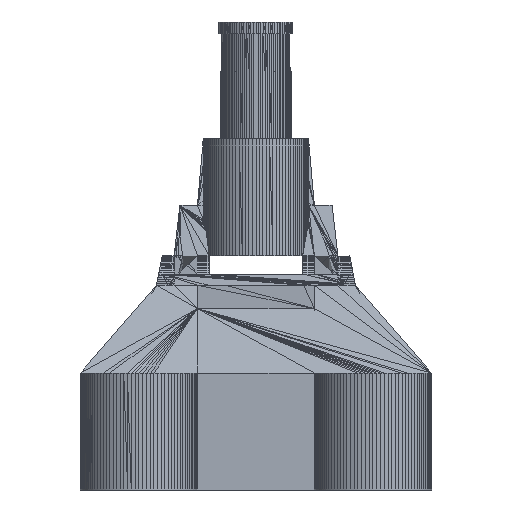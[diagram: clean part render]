
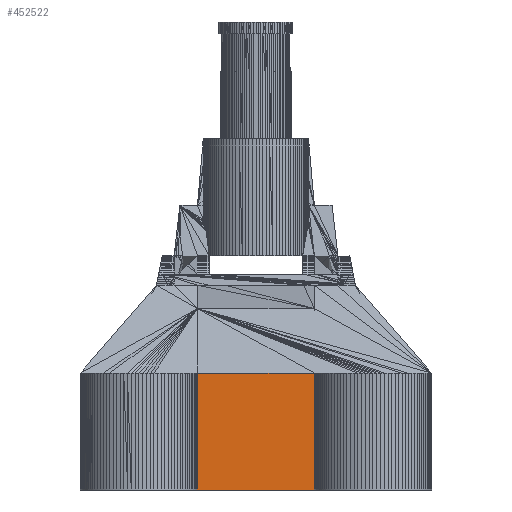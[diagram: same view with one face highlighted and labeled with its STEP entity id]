
A CAD part, front view. The second image highlights one B-rep face of the part: STEP entity #452522.
In plain terms, the highlighted planar face has unit normal (0, -1, 0).
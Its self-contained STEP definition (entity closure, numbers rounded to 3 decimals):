
#32 = PLANE('',#33);
#33 = AXIS2_PLACEMENT_3D('',#34,#35,#36);
#34 = CARTESIAN_POINT('',(-11.476,-15.191,
    0.));
#35 = DIRECTION('',(0.,0.,-1.));
#36 = DIRECTION('',(-1.,0.,-0.));
#2745 = VERTEX_POINT('',#2746);
#2746 = CARTESIAN_POINT('',(3.99,-9.192,
    0.));
#2772 = EDGE_CURVE('',#2773,#2745,#2775,.T.);
#2773 = VERTEX_POINT('',#2774);
#2774 = CARTESIAN_POINT('',(-4.004,-9.192,
    0.));
#2775 = SURFACE_CURVE('',#2776,(#2780,#2787),.PCURVE_S1.);
#2776 = LINE('',#2777,#2778);
#2777 = CARTESIAN_POINT('',(-4.004,-9.192,
    0.));
#2778 = VECTOR('',#2779,1.);
#2779 = DIRECTION('',(1.,0.,0.));
#2780 = PCURVE('',#32,#2781);
#2781 = DEFINITIONAL_REPRESENTATION('',(#2782),#2786);
#2782 = LINE('',#2783,#2784);
#2783 = CARTESIAN_POINT('',(-7.472,5.999));
#2784 = VECTOR('',#2785,1.);
#2785 = DIRECTION('',(-1.,0.));
#2786 = ( GEOMETRIC_REPRESENTATION_CONTEXT(2) 
PARAMETRIC_REPRESENTATION_CONTEXT() REPRESENTATION_CONTEXT('2D SPACE',''
  ) );
#2787 = PCURVE('',#2788,#2793);
#2788 = PLANE('',#2789);
#2789 = AXIS2_PLACEMENT_3D('',#2790,#2791,#2792);
#2790 = CARTESIAN_POINT('',(-4.004,-9.192,
    0.));
#2791 = DIRECTION('',(0.,-1.,0.));
#2792 = DIRECTION('',(0.,-0.,-1.));
#2793 = DEFINITIONAL_REPRESENTATION('',(#2794),#2798);
#2794 = LINE('',#2795,#2796);
#2795 = CARTESIAN_POINT('',(0.,0.));
#2796 = VECTOR('',#2797,1.);
#2797 = DIRECTION('',(0.,1.));
#2798 = ( GEOMETRIC_REPRESENTATION_CONTEXT(2) 
PARAMETRIC_REPRESENTATION_CONTEXT() REPRESENTATION_CONTEXT('2D SPACE',''
  ) );
#2816 = PLANE('',#2817);
#2817 = AXIS2_PLACEMENT_3D('',#2818,#2819,#2820);
#2818 = CARTESIAN_POINT('',(-4.004,-13.196,
    0.));
#2819 = DIRECTION('',(1.,0.,0.));
#2820 = DIRECTION('',(0.,0.,1.));
#23137 = VERTEX_POINT('',#23138);
#23138 = CARTESIAN_POINT('',(3.99,-9.192,7.995
    ));
#23180 = PLANE('',#23181);
#23181 = AXIS2_PLACEMENT_3D('',#23182,#23183,#23184);
#23182 = CARTESIAN_POINT('',(3.99,-13.196,
    7.995));
#23183 = DIRECTION('',(-1.,0.,0.));
#23184 = DIRECTION('',(0.,0.,-1.));
#25806 = EDGE_CURVE('',#2745,#23137,#25807,.T.);
#25807 = SURFACE_CURVE('',#25808,(#25812,#25819),.PCURVE_S1.);
#25808 = LINE('',#25809,#25810);
#25809 = CARTESIAN_POINT('',(3.99,-9.192,
    0.));
#25810 = VECTOR('',#25811,1.);
#25811 = DIRECTION('',(0.,0.,1.));
#25812 = PCURVE('',#23180,#25813);
#25813 = DEFINITIONAL_REPRESENTATION('',(#25814),#25818);
#25814 = LINE('',#25815,#25816);
#25815 = CARTESIAN_POINT('',(7.995,-4.004));
#25816 = VECTOR('',#25817,1.);
#25817 = DIRECTION('',(-1.,0.));
#25818 = ( GEOMETRIC_REPRESENTATION_CONTEXT(2) 
PARAMETRIC_REPRESENTATION_CONTEXT() REPRESENTATION_CONTEXT('2D SPACE',''
  ) );
#25819 = PCURVE('',#2788,#25820);
#25820 = DEFINITIONAL_REPRESENTATION('',(#25821),#25825);
#25821 = LINE('',#25822,#25823);
#25822 = CARTESIAN_POINT('',(0.,7.995));
#25823 = VECTOR('',#25824,1.);
#25824 = DIRECTION('',(-1.,0.));
#25825 = ( GEOMETRIC_REPRESENTATION_CONTEXT(2) 
PARAMETRIC_REPRESENTATION_CONTEXT() REPRESENTATION_CONTEXT('2D SPACE',''
  ) );
#25867 = PLANE('',#25868);
#25868 = AXIS2_PLACEMENT_3D('',#25869,#25870,#25871);
#25869 = CARTESIAN_POINT('',(-4.004,-9.192,7.995
    ));
#25870 = DIRECTION('',(0.,-0.707,0.707));
#25871 = DIRECTION('',(0.,0.707,0.707));
#25904 = EDGE_CURVE('',#25905,#23137,#25907,.T.);
#25905 = VERTEX_POINT('',#25906);
#25906 = CARTESIAN_POINT('',(-4.004,-9.192,7.995
    ));
#25907 = SURFACE_CURVE('',#25908,(#25912,#25919),.PCURVE_S1.);
#25908 = LINE('',#25909,#25910);
#25909 = CARTESIAN_POINT('',(-4.004,-9.192,7.995
    ));
#25910 = VECTOR('',#25911,1.);
#25911 = DIRECTION('',(1.,0.,0.));
#25912 = PCURVE('',#25867,#25913);
#25913 = DEFINITIONAL_REPRESENTATION('',(#25914),#25918);
#25914 = LINE('',#25915,#25916);
#25915 = CARTESIAN_POINT('',(0.,0.));
#25916 = VECTOR('',#25917,1.);
#25917 = DIRECTION('',(0.,-1.));
#25918 = ( GEOMETRIC_REPRESENTATION_CONTEXT(2) 
PARAMETRIC_REPRESENTATION_CONTEXT() REPRESENTATION_CONTEXT('2D SPACE',''
  ) );
#25919 = PCURVE('',#2788,#25920);
#25920 = DEFINITIONAL_REPRESENTATION('',(#25921),#25925);
#25921 = LINE('',#25922,#25923);
#25922 = CARTESIAN_POINT('',(-7.995,0.));
#25923 = VECTOR('',#25924,1.);
#25924 = DIRECTION('',(0.,1.));
#25925 = ( GEOMETRIC_REPRESENTATION_CONTEXT(2) 
PARAMETRIC_REPRESENTATION_CONTEXT() REPRESENTATION_CONTEXT('2D SPACE',''
  ) );
#452500 = EDGE_CURVE('',#2773,#25905,#452501,.T.);
#452501 = SURFACE_CURVE('',#452502,(#452506,#452513),.PCURVE_S1.);
#452502 = LINE('',#452503,#452504);
#452503 = CARTESIAN_POINT('',(-4.004,-9.192,
    0.));
#452504 = VECTOR('',#452505,1.);
#452505 = DIRECTION('',(0.,0.,1.));
#452506 = PCURVE('',#2816,#452507);
#452507 = DEFINITIONAL_REPRESENTATION('',(#452508),#452512);
#452508 = LINE('',#452509,#452510);
#452509 = CARTESIAN_POINT('',(0.,-4.004));
#452510 = VECTOR('',#452511,1.);
#452511 = DIRECTION('',(1.,0.));
#452512 = ( GEOMETRIC_REPRESENTATION_CONTEXT(2) 
PARAMETRIC_REPRESENTATION_CONTEXT() REPRESENTATION_CONTEXT('2D SPACE',''
  ) );
#452513 = PCURVE('',#2788,#452514);
#452514 = DEFINITIONAL_REPRESENTATION('',(#452515),#452519);
#452515 = LINE('',#452516,#452517);
#452516 = CARTESIAN_POINT('',(0.,0.));
#452517 = VECTOR('',#452518,1.);
#452518 = DIRECTION('',(-1.,0.));
#452519 = ( GEOMETRIC_REPRESENTATION_CONTEXT(2) 
PARAMETRIC_REPRESENTATION_CONTEXT() REPRESENTATION_CONTEXT('2D SPACE',''
  ) );
#452522 = ADVANCED_FACE('',(#452523),#2788,.T.);
#452523 = FACE_BOUND('',#452524,.T.);
#452524 = EDGE_LOOP('',(#452525,#452526,#452527,#452528));
#452525 = ORIENTED_EDGE('',*,*,#25904,.F.);
#452526 = ORIENTED_EDGE('',*,*,#452500,.F.);
#452527 = ORIENTED_EDGE('',*,*,#2772,.T.);
#452528 = ORIENTED_EDGE('',*,*,#25806,.T.);
